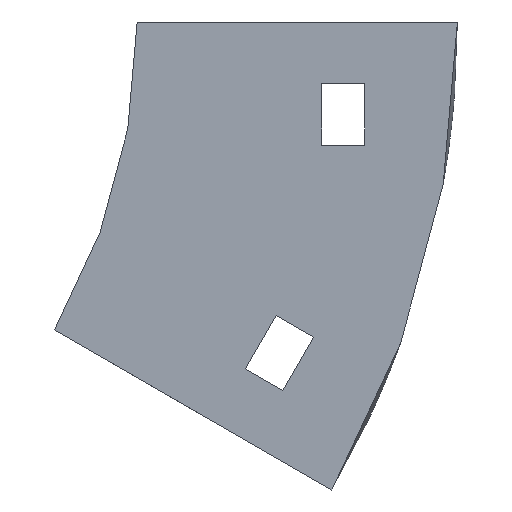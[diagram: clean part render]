
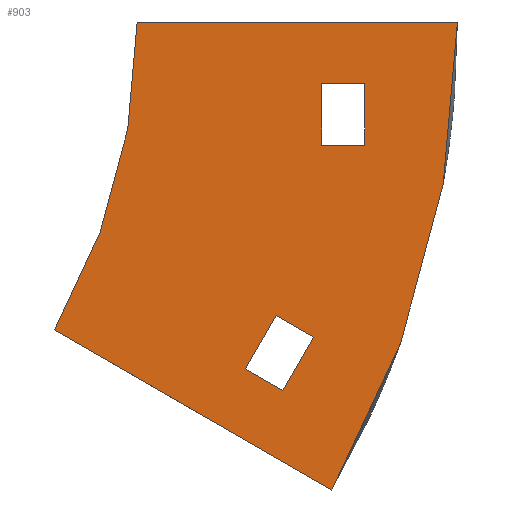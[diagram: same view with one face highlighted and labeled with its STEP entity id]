
A CAD part, left-side view. The second image highlights one B-rep face of the part: STEP entity #903.
In plain terms, the highlighted planar face has unit normal (-1, 0, 0).
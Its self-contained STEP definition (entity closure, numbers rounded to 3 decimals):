
#4 = EDGE_CURVE ( 'NONE', #313, #347, #812, .T. ) ;
#6 = CARTESIAN_POINT ( 'NONE',  ( -202., -31.636, -76. ) ) ;
#19 = CARTESIAN_POINT ( 'NONE',  ( -202., -30., -20. ) ) ;
#20 = EDGE_LOOP ( 'NONE', ( #702, #1035, #226, #998 ) ) ;
#22 = DIRECTION ( 'NONE',  ( 0., 0., -1. ) ) ;
#34 = LINE ( 'NONE', #410, #163 ) ;
#42 = EDGE_CURVE ( 'NONE', #866, #232, #579, .T. ) ;
#43 = VERTEX_POINT ( 'NONE', #497 ) ;
#68 = CARTESIAN_POINT ( 'NONE',  ( -202., -52., 0. ) ) ;
#75 = VECTOR ( 'NONE', #155, 1000. ) ;
#106 = VERTEX_POINT ( 'NONE', #6 ) ;
#108 = EDGE_CURVE ( 'NONE', #740, #120, #1069, .T. ) ;
#120 = VERTEX_POINT ( 'NONE', #714 ) ;
#130 = CIRCLE ( 'NONE', #341, 152. ) ;
#135 = LINE ( 'NONE', #756, #143 ) ;
#143 = VECTOR ( 'NONE', #511, 1000. ) ;
#155 = DIRECTION ( 'NONE',  ( 0., -0.5, 0.866 ) ) ;
#157 = DIRECTION ( 'NONE',  ( 0., -0.866, -0.5 ) ) ;
#163 = VECTOR ( 'NONE', #392, 1000. ) ;
#168 = CARTESIAN_POINT ( 'NONE',  ( -202., 100., 0. ) ) ;
#169 = VERTEX_POINT ( 'NONE', #844 ) ;
#170 = EDGE_CURVE ( 'NONE', #106, #43, #34, .T. ) ;
#189 = VECTOR ( 'NONE', #213, 1000. ) ;
#213 = DIRECTION ( 'NONE',  ( 0., 1., 0. ) ) ;
#220 = EDGE_CURVE ( 'NONE', #789, #169, #135, .T. ) ;
#226 = ORIENTED_EDGE ( 'NONE', *, *, #108, .F. ) ;
#232 = VERTEX_POINT ( 'NONE', #612 ) ;
#259 = DIRECTION ( 'NONE',  ( 0., 0., -1. ) ) ;
#261 = DIRECTION ( 'NONE',  ( -1., 0., 0. ) ) ;
#265 = DIRECTION ( 'NONE',  ( 0., 0.5, -0.866 ) ) ;
#270 = EDGE_CURVE ( 'NONE', #232, #740, #962, .T. ) ;
#271 = LINE ( 'NONE', #349, #1135 ) ;
#298 = PLANE ( 'NONE',  #1056 ) ;
#305 = AXIS2_PLACEMENT_3D ( 'NONE', #168, #261, #794 ) ;
#313 = VERTEX_POINT ( 'NONE', #1046 ) ;
#320 = EDGE_CURVE ( 'NONE', #169, #313, #952, .T. ) ;
#331 = CARTESIAN_POINT ( 'NONE',  ( -202., -23.645, -59.84 ) ) ;
#341 = AXIS2_PLACEMENT_3D ( 'NONE', #959, #448, #259 ) ;
#347 = VERTEX_POINT ( 'NONE', #553 ) ;
#349 = CARTESIAN_POINT ( 'NONE',  ( -202., -17.583, -56.34 ) ) ;
#350 = CARTESIAN_POINT ( 'NONE',  ( -202., -17.583, -56.34 ) ) ;
#392 = DIRECTION ( 'NONE',  ( 0., 0.866, 0.5 ) ) ;
#398 = VECTOR ( 'NONE', #1120, 1000. ) ;
#410 = CARTESIAN_POINT ( 'NONE',  ( -202., 13.397, -50. ) ) ;
#443 = VECTOR ( 'NONE', #22, 1000. ) ;
#448 = DIRECTION ( 'NONE',  ( 1., 0., 0. ) ) ;
#466 = ORIENTED_EDGE ( 'NONE', *, *, #934, .F. ) ;
#467 = CARTESIAN_POINT ( 'NONE',  ( -202., 0., 0. ) ) ;
#472 = LINE ( 'NONE', #19, #189 ) ;
#478 = CARTESIAN_POINT ( 'NONE',  ( -202., -37., -10. ) ) ;
#495 = VERTEX_POINT ( 'NONE', #856 ) ;
#497 = CARTESIAN_POINT ( 'NONE',  ( -202., 13.397, -50. ) ) ;
#503 = ORIENTED_EDGE ( 'NONE', *, *, #1105, .F. ) ;
#504 = CARTESIAN_POINT ( 'NONE',  ( -202., 100., 0. ) ) ;
#507 = EDGE_CURVE ( 'NONE', #120, #866, #271, .T. ) ;
#511 = DIRECTION ( 'NONE',  ( 0., 0., 1. ) ) ;
#514 = CARTESIAN_POINT ( 'NONE',  ( -202., -30., -10. ) ) ;
#522 = LINE ( 'NONE', #68, #398 ) ;
#553 = CARTESIAN_POINT ( 'NONE',  ( -202., -37., -20. ) ) ;
#568 = FACE_OUTER_BOUND ( 'NONE', #721, .T. ) ;
#579 = LINE ( 'NONE', #350, #898 ) ;
#587 = FACE_BOUND ( 'NONE', #712, .T. ) ;
#597 = EDGE_CURVE ( 'NONE', #347, #789, #472, .T. ) ;
#612 = CARTESIAN_POINT ( 'NONE',  ( -202., -23.645, -59.84 ) ) ;
#631 = CARTESIAN_POINT ( 'NONE',  ( -202., -22.583, -47.679 ) ) ;
#644 = CIRCLE ( 'NONE', #305, 100. ) ;
#645 = ORIENTED_EDGE ( 'NONE', *, *, #597, .T. ) ;
#676 = CARTESIAN_POINT ( 'NONE',  ( -202., -28.645, -51.179 ) ) ;
#694 = ORIENTED_EDGE ( 'NONE', *, *, #170, .F. ) ;
#702 = ORIENTED_EDGE ( 'NONE', *, *, #42, .F. ) ;
#712 = EDGE_LOOP ( 'NONE', ( #831, #897, #849, #645 ) ) ;
#714 = CARTESIAN_POINT ( 'NONE',  ( -202., -22.583, -47.679 ) ) ;
#721 = EDGE_LOOP ( 'NONE', ( #466, #694, #503, #1001 ) ) ;
#740 = VERTEX_POINT ( 'NONE', #676 ) ;
#750 = DIRECTION ( 'NONE',  ( 1., 0., 0. ) ) ;
#756 = CARTESIAN_POINT ( 'NONE',  ( -202., -30., -10. ) ) ;
#759 = EDGE_CURVE ( 'NONE', #1077, #495, #522, .T. ) ;
#789 = VERTEX_POINT ( 'NONE', #843 ) ;
#794 = DIRECTION ( 'NONE',  ( 0., 0., -1. ) ) ;
#812 = LINE ( 'NONE', #478, #443 ) ;
#831 = ORIENTED_EDGE ( 'NONE', *, *, #220, .T. ) ;
#839 = FACE_BOUND ( 'NONE', #20, .T. ) ;
#843 = CARTESIAN_POINT ( 'NONE',  ( -202., -30., -20. ) ) ;
#844 = CARTESIAN_POINT ( 'NONE',  ( -202., -30., -10. ) ) ;
#849 = ORIENTED_EDGE ( 'NONE', *, *, #4, .T. ) ;
#854 = DIRECTION ( 'NONE',  ( 0., -1., 0. ) ) ;
#856 = CARTESIAN_POINT ( 'NONE',  ( -202., -52., 0. ) ) ;
#866 = VERTEX_POINT ( 'NONE', #926 ) ;
#897 = ORIENTED_EDGE ( 'NONE', *, *, #320, .T. ) ;
#898 = VECTOR ( 'NONE', #157, 1000. ) ;
#903 = ADVANCED_FACE ( 'NONE', ( #568, #587, #839 ), #298, .F. ) ;
#926 = CARTESIAN_POINT ( 'NONE',  ( -202., -17.583, -56.34 ) ) ;
#934 = EDGE_CURVE ( 'NONE', #43, #1077, #644, .T. ) ;
#952 = LINE ( 'NONE', #514, #975 ) ;
#959 = CARTESIAN_POINT ( 'NONE',  ( -202., 100., 0. ) ) ;
#962 = LINE ( 'NONE', #331, #75 ) ;
#975 = VECTOR ( 'NONE', #854, 1000. ) ;
#987 = DIRECTION ( 'NONE',  ( 0., 0.866, 0.5 ) ) ;
#989 = VECTOR ( 'NONE', #987, 1000. ) ;
#998 = ORIENTED_EDGE ( 'NONE', *, *, #270, .F. ) ;
#1001 = ORIENTED_EDGE ( 'NONE', *, *, #759, .F. ) ;
#1009 = DIRECTION ( 'NONE',  ( 0., 0., -1. ) ) ;
#1035 = ORIENTED_EDGE ( 'NONE', *, *, #507, .F. ) ;
#1046 = CARTESIAN_POINT ( 'NONE',  ( -202., -37., -10. ) ) ;
#1056 = AXIS2_PLACEMENT_3D ( 'NONE', #504, #750, #1009 ) ;
#1069 = LINE ( 'NONE', #631, #989 ) ;
#1077 = VERTEX_POINT ( 'NONE', #467 ) ;
#1105 = EDGE_CURVE ( 'NONE', #495, #106, #130, .T. ) ;
#1120 = DIRECTION ( 'NONE',  ( 0., -1., 0. ) ) ;
#1135 = VECTOR ( 'NONE', #265, 1000. ) ;
